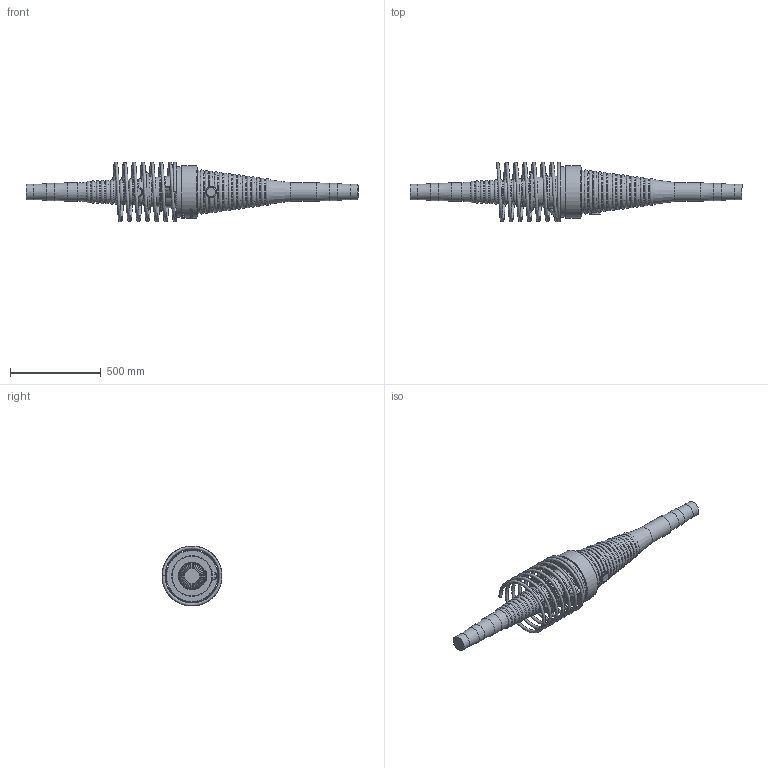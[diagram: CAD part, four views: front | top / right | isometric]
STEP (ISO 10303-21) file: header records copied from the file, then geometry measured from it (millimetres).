
FILE_DESCRIPTION(/* description */ (''),/* implementation_level */ '2;1');
FILE_NAME(/* name */ 'BBR VT CONA CMI BT 1906_Coupler K Assembly_CS-43,35_Helix.stp',/* time_stamp */ '2025-04-24T10:37:53+02:00',/* author */ ('tk'),/* organization */ (''),/* preprocessor_version */ 'ST-DEVELOPER v20',/* originating_system */ 'Autodesk Inventor 2024',/* authorisation */ '');
FILE_SCHEMA (('AUTOMOTIVE_DESIGN { 1 0 10303 214 3 1 1 }'));
Products named in the file (1): BBR VT CONA CMI BT 1906_Coupler K Assembly_CS-43,35_Helix
Bounding box: 1830.13 x 330 x 330 mm (x, y, z)
Volume: 36019742.1 mm3; surface area: 1378032.2 mm2
Topology: 2 solids, 2 shells, 984 faces, 2608 edges, 1695 vertices
Faces by surface type: bspline 405, plane 344, torus 100, cylinder 91, cone 34, sphere 10
Full cylindrical faces by diameter (mm): 57 x2, 84 x2, 94 x2, 104 x2, 164 x1, 218 x1, 223.017 x1, 273 x1, 280 x1, 286 x1, 290 x1
Entity records: 45840 total; most frequent: CARTESIAN_POINT 22527, ORIENTED_EDGE 5196, DIRECTION 3715, EDGE_CURVE 2598, VERTEX_POINT 1695, AXIS2_PLACEMENT_3D 1359, EDGE_LOOP 1063, LINE 997
